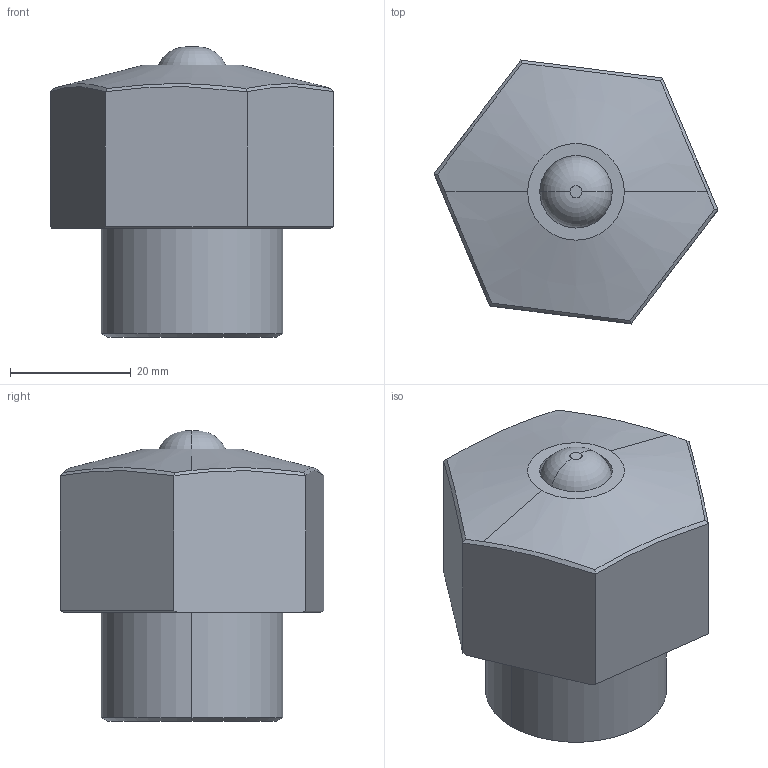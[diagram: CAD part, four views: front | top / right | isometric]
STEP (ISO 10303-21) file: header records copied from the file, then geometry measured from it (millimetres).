
FILE_DESCRIPTION (( 'STEP AP214' ), '1' );
FILE_NAME ('TO4C-M301.STEP', '2020-08-02T05:28:21', ( '' ), ( '' ), 'SwSTEP 2.0', 'SolidWorks 2019', '' );
FILE_SCHEMA (( 'AUTOMOTIVE_DESIGN' ));
Length unit declared in the file: millimetre
Products named in the file (3): TO4C-M301-BODY; TO4C-M301; TO4C-M301-PISTON
Assembly tree (2 placements, depth 2):
  TO4C-M301
    TO4C-M301-BODY
    TO4C-M301-PISTON
Bounding box: 46.97 x 43.65 x 48 mm (x, y, z)
Volume: 48537.8 mm3; surface area: 10489.4 mm2
Topology: 2 solids, 2 shells, 43 faces, 89 edges, 54 vertices
Faces by surface type: plane 19, cylinder 10, cone 6, bspline 6, torus 2
Entity records: 2200 total; most frequent: CARTESIAN_POINT 1192, DIRECTION 183, ORIENTED_EDGE 178, EDGE_CURVE 89, AXIS2_PLACEMENT_3D 72, VERTEX_POINT 54, EDGE_LOOP 47, FACE_OUTER_BOUND 43
